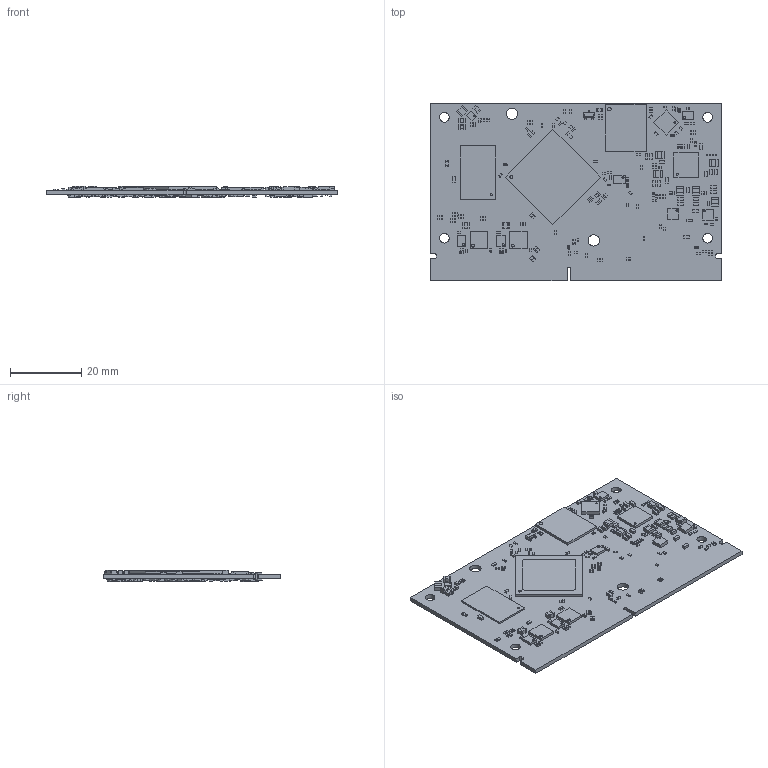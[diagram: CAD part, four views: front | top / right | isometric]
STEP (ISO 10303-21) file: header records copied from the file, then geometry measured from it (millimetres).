
FILE_DESCRIPTION(('Open CASCADE Model'),'2;1');
FILE_NAME('Open CASCADE Shape Model','2026-10-02T11:29:10',('Author'),( 'Open CASCADE'),'Open CASCADE STEP processor 7.5','Open CASCADE 7.5' ,'Unknown');
FILE_SCHEMA(('AUTOMOTIVE_DESIGN { 1 0 10303 214 1 1 1 1 }'));
Length unit declared in the file: millimetre
Products named in the file (631): PCB; Board; Open CASCADE STEP translator 7.5 2.1.1; D1; 13244774720; Extruded; 12133800896; Sphere; 12133800736; 13097796064; Cylinder; 13096449120; R22; User Library-d0402h025; R23; R55; D12; 12133797696; 12133801776; C170; 9465983648; Terminal; Open CASCADE STEP translator 6.8 11.1.1; Open CASCADE STEP translator 6.8 11.1.2; Mid_Body; Open CASCADE STEP translator 6.8 11.2.1; R158; R107; R106; C169; 9465984128; C168; C167; C166; 9465983248; R104; R103; R105; VT2; SOT-23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
Assembly tree (1076 placements, depth 5):
  PCB
    Board
      Open CASCADE STEP translator 7.5 2.1.1
    D1
      13244774720
        Extruded
      12133800896  x2
        Sphere
      12133800736  x2
        Sphere
      13097796064
        Cylinder
      13096449120
        Extruded
    R22
      User Library-d0402h025
    R23
      User Library-d0402h025
    R55
      User Library-d0402h025
    D12
      12133797696
        Cylinder
      12133801776
        Extruded
    C170
      9465983648
        Terminal
          Open CASCADE STEP translator 6.8 11.1.1
          Open CASCADE STEP translator 6.8 11.1.2
        Mid_Body
          Open CASCADE STEP translator 6.8 11.2.1
    R158
      User Library-d0402h025
    R107
      User Library-d0402h025
    R106
      User Library-d0402h025
    C169
      9465984128
        Terminal
          Open CASCADE STEP translator 6.8 11.1.1
          Open CASCADE STEP translator 6.8 11.1.2
        Mid_Body
          Open CASCADE STEP translator 6.8 11.2.1
    C168
      9465984128
        Terminal
          Open CASCADE STEP translator 6.8 11.1.1
          Open CASCADE STEP translator 6.8 11.1.2
        Mid_Body
          Open CASCADE STEP translator 6.8 11.2.1
    C167
      9465984128
        Terminal
          Open CASCADE STEP translator 6.8 11.1.1
          Open CASCADE STEP translator 6.8 11.1.2
        Mid_Body
          Open CASCADE STEP translator 6.8 11.2.1
    C166
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Bounding box: 82 x 50 x 3.35 mm (x, y, z)
Volume: 5929.5 mm3; surface area: 12862.9 mm2
Topology: 891 solids, 891 shells, 14470 faces, 32954 edges, 18680 vertices
Faces by surface type: plane 7417, cylinder 5018, sphere 1608, bspline 427
Full cylindrical faces by diameter (mm): 0.4 x7, 0.6 x7, 0.8 x3, 1 x1, 2.7 x4, 3.2 x2
Entity records: 52492 total; most frequent: CARTESIAN_POINT 9417, DIRECTION 7474, ORIENTED_EDGE 5136, AXIS2_PLACEMENT_3D 2836, EDGE_CURVE 2568, LINE 1802, VECTOR 1802, PRODUCT_DEFINITION_SHAPE 1707
